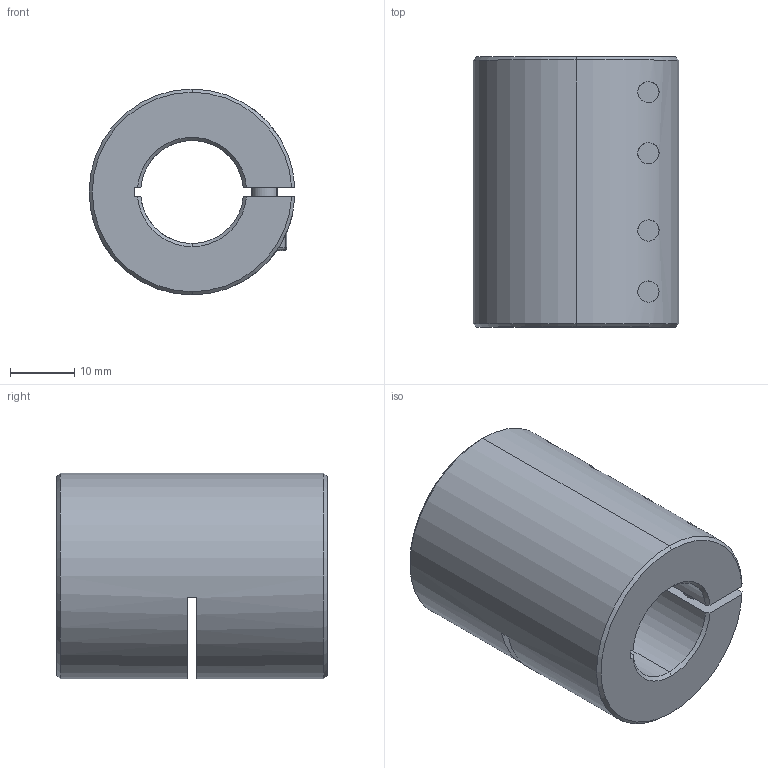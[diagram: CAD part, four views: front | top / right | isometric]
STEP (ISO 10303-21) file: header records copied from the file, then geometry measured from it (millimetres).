
FILE_DESCRIPTION (( 'STEP AP203' ), '1' );
FILE_NAME ('LL-B-D32L42-16-16.STEP', '2021-11-05T07:54:00', ( '' ), ( '' ), 'SwSTEP 2.0', 'SolidWorks 2018', '' );
FILE_SCHEMA (( 'CONFIG_CONTROL_DESIGN' ));
Length unit declared in the file: millimetre
Products named in the file (1): LL-B-D32L42-16-16
Bounding box: 31.98 x 42 x 32 mm (x, y, z)
Volume: 23462.3 mm3; surface area: 10226.2 mm2
Topology: 1 solids, 1 shells, 187 faces, 474 edges, 297 vertices
Faces by surface type: plane 86, cylinder 73, cone 20, torus 8
Entity records: 6172 total; most frequent: CARTESIAN_POINT 1523, DIRECTION 1001, ORIENTED_EDGE 932, EDGE_CURVE 466, AXIS2_PLACEMENT_3D 391, VERTEX_POINT 297, EDGE_LOOP 219, LINE 219
